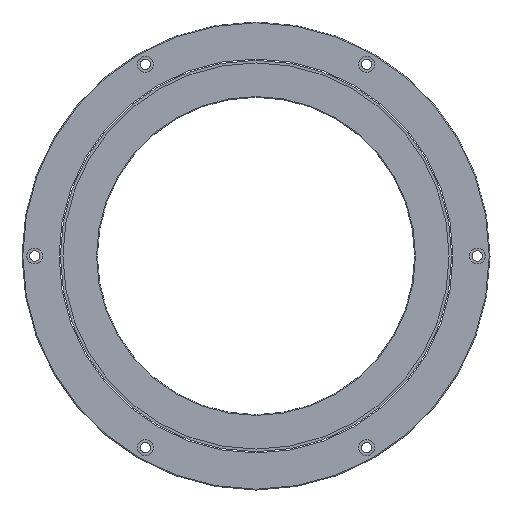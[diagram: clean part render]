
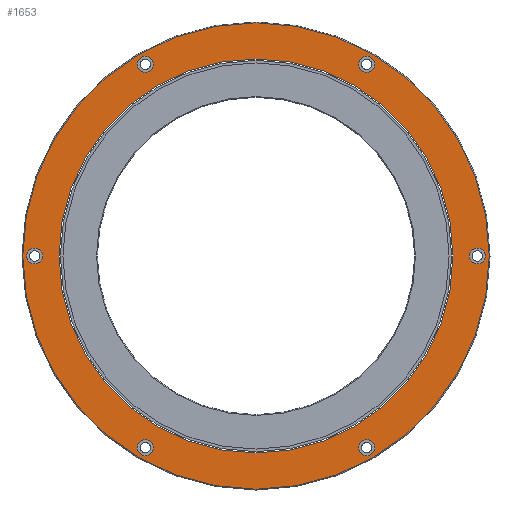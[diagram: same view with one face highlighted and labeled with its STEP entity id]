
A CAD part, front view. The second image highlights one B-rep face of the part: STEP entity #1653.
In plain terms, the highlighted planar face has unit normal (0, -1, 0).
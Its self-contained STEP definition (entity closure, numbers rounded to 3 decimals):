
#371=CARTESIAN_POINT('',(0.,0.,0.));
#372=DIRECTION('',(0.,-1.,0.));
#373=DIRECTION('',(-1.,0.,0.));
#374=AXIS2_PLACEMENT_3D('',#371,#372,#373);
#376=CARTESIAN_POINT('',(0.,0.,0.));
#377=DIRECTION('',(0.,1.,0.));
#378=DIRECTION('',(-1.,0.,0.));
#379=AXIS2_PLACEMENT_3D('',#376,#377,#378);
#381=CARTESIAN_POINT('',(-139.5,0.,0.));
#382=DIRECTION('',(0.,1.,0.));
#383=DIRECTION('',(1.,0.,0.));
#384=AXIS2_PLACEMENT_3D('',#381,#382,#383);
#386=CARTESIAN_POINT('',(-139.5,0.,0.));
#387=DIRECTION('',(0.,1.,0.));
#388=DIRECTION('',(-1.,0.,0.));
#389=AXIS2_PLACEMENT_3D('',#386,#387,#388);
#391=CARTESIAN_POINT('',(-69.75,0.,120.811));
#392=DIRECTION('',(0.,1.,0.));
#393=DIRECTION('',(0.5,0.,-0.866));
#394=AXIS2_PLACEMENT_3D('',#391,#392,#393);
#396=CARTESIAN_POINT('',(-69.75,0.,120.811));
#397=DIRECTION('',(0.,1.,0.));
#398=DIRECTION('',(-0.5,0.,0.866));
#399=AXIS2_PLACEMENT_3D('',#396,#397,#398);
#401=CARTESIAN_POINT('',(69.75,0.,120.811));
#402=DIRECTION('',(0.,1.,0.));
#403=DIRECTION('',(-0.5,0.,-0.866));
#404=AXIS2_PLACEMENT_3D('',#401,#402,#403);
#406=CARTESIAN_POINT('',(69.75,0.,120.811));
#407=DIRECTION('',(0.,1.,0.));
#408=DIRECTION('',(0.5,0.,0.866));
#409=AXIS2_PLACEMENT_3D('',#406,#407,#408);
#411=CARTESIAN_POINT('',(139.5,0.,0.));
#412=DIRECTION('',(0.,1.,0.));
#413=DIRECTION('',(-1.,0.,0.));
#414=AXIS2_PLACEMENT_3D('',#411,#412,#413);
#416=CARTESIAN_POINT('',(139.5,0.,0.));
#417=DIRECTION('',(0.,1.,0.));
#418=DIRECTION('',(1.,0.,0.));
#419=AXIS2_PLACEMENT_3D('',#416,#417,#418);
#421=CARTESIAN_POINT('',(69.75,0.,-120.811));
#422=DIRECTION('',(0.,1.,0.));
#423=DIRECTION('',(-0.5,0.,0.866));
#424=AXIS2_PLACEMENT_3D('',#421,#422,#423);
#426=CARTESIAN_POINT('',(69.75,0.,-120.811));
#427=DIRECTION('',(0.,1.,0.));
#428=DIRECTION('',(0.5,0.,-0.866));
#429=AXIS2_PLACEMENT_3D('',#426,#427,#428);
#431=CARTESIAN_POINT('',(-69.75,0.,-120.811));
#432=DIRECTION('',(0.,1.,0.));
#433=DIRECTION('',(0.5,0.,0.866));
#434=AXIS2_PLACEMENT_3D('',#431,#432,#433);
#436=CARTESIAN_POINT('',(-69.75,0.,-120.811));
#437=DIRECTION('',(0.,1.,0.));
#438=DIRECTION('',(-0.5,0.,-0.866));
#439=AXIS2_PLACEMENT_3D('',#436,#437,#438);
#441=CARTESIAN_POINT('',(0.,0.,0.));
#442=DIRECTION('',(0.,1.,0.));
#443=DIRECTION('',(-1.,0.,0.));
#444=AXIS2_PLACEMENT_3D('',#441,#442,#443);
#446=CARTESIAN_POINT('',(0.,0.,0.));
#447=DIRECTION('',(0.,1.,0.));
#448=DIRECTION('',(1.,0.,0.));
#449=AXIS2_PLACEMENT_3D('',#446,#447,#448);
#919=CARTESIAN_POINT('',(-134.5,0.,0.));
#920=VERTEX_POINT('',#919);
#921=CARTESIAN_POINT('',(-144.5,0.,0.));
#922=VERTEX_POINT('',#921);
#931=CARTESIAN_POINT('',(-67.25,0.,116.48));
#932=VERTEX_POINT('',#931);
#933=CARTESIAN_POINT('',(-72.25,0.,125.141));
#934=VERTEX_POINT('',#933);
#943=CARTESIAN_POINT('',(67.25,0.,116.48));
#944=VERTEX_POINT('',#943);
#945=CARTESIAN_POINT('',(72.25,0.,125.141));
#946=VERTEX_POINT('',#945);
#955=CARTESIAN_POINT('',(134.5,0.,0.));
#956=VERTEX_POINT('',#955);
#957=CARTESIAN_POINT('',(144.5,0.,0.));
#958=VERTEX_POINT('',#957);
#976=CARTESIAN_POINT('',(-124.15,0.,0.));
#978=VERTEX_POINT('',#976);
#980=CARTESIAN_POINT('',(124.15,0.,0.));
#982=VERTEX_POINT('',#980);
#995=CARTESIAN_POINT('',(-147.,0.,0.));
#996=CARTESIAN_POINT('',(147.,0.,0.));
#997=VERTEX_POINT('',#995);
#998=VERTEX_POINT('',#996);
#1043=CARTESIAN_POINT('',(67.25,0.,-116.48));
#1044=CARTESIAN_POINT('',(72.25,0.,-125.141));
#1045=VERTEX_POINT('',#1043);
#1046=VERTEX_POINT('',#1044);
#1055=CARTESIAN_POINT('',(-67.25,0.,-116.48));
#1056=CARTESIAN_POINT('',(-72.25,0.,-125.141));
#1057=VERTEX_POINT('',#1055);
#1058=VERTEX_POINT('',#1056);
#1604=CARTESIAN_POINT('',(0.,0.,0.));
#1605=DIRECTION('',(0.,1.,0.));
#1606=DIRECTION('',(1.,0.,0.));
#1607=AXIS2_PLACEMENT_3D('',#1604,#1605,#1606);
#1608=PLANE('',#1607);
#1609=ORIENTED_EDGE('',*,*,#1090,.T.);
#1610=ORIENTED_EDGE('',*,*,#1105,.T.);
#1611=EDGE_LOOP('',(#1609,#1610));
#1612=FACE_OUTER_BOUND('',#1611,.F.);
#1614=ORIENTED_EDGE('',*,*,#1613,.F.);
#1616=ORIENTED_EDGE('',*,*,#1615,.F.);
#1617=EDGE_LOOP('',(#1614,#1616));
#1618=FACE_BOUND('',#1617,.F.);
#1620=ORIENTED_EDGE('',*,*,#1619,.F.);
#1622=ORIENTED_EDGE('',*,*,#1621,.F.);
#1623=EDGE_LOOP('',(#1620,#1622));
#1624=FACE_BOUND('',#1623,.F.);
#1626=ORIENTED_EDGE('',*,*,#1625,.F.);
#1628=ORIENTED_EDGE('',*,*,#1627,.F.);
#1629=EDGE_LOOP('',(#1626,#1628));
#1630=FACE_BOUND('',#1629,.F.);
#1632=ORIENTED_EDGE('',*,*,#1631,.F.);
#1634=ORIENTED_EDGE('',*,*,#1633,.F.);
#1635=EDGE_LOOP('',(#1632,#1634));
#1636=FACE_BOUND('',#1635,.F.);
#1638=ORIENTED_EDGE('',*,*,#1637,.F.);
#1640=ORIENTED_EDGE('',*,*,#1639,.F.);
#1641=EDGE_LOOP('',(#1638,#1640));
#1642=FACE_BOUND('',#1641,.F.);
#1644=ORIENTED_EDGE('',*,*,#1643,.F.);
#1646=ORIENTED_EDGE('',*,*,#1645,.F.);
#1647=EDGE_LOOP('',(#1644,#1646));
#1648=FACE_BOUND('',#1647,.F.);
#1649=ORIENTED_EDGE('',*,*,#1599,.T.);
#1650=ORIENTED_EDGE('',*,*,#1583,.F.);
#1651=EDGE_LOOP('',(#1649,#1650));
#1652=FACE_BOUND('',#1651,.F.);
#375=CIRCLE('',#374,124.15);
#380=CIRCLE('',#379,124.15);
#385=CIRCLE('',#384,5.);
#390=CIRCLE('',#389,5.);
#395=CIRCLE('',#394,5.);
#400=CIRCLE('',#399,5.);
#405=CIRCLE('',#404,5.);
#410=CIRCLE('',#409,5.);
#415=CIRCLE('',#414,5.);
#420=CIRCLE('',#419,5.);
#425=CIRCLE('',#424,5.);
#430=CIRCLE('',#429,5.);
#435=CIRCLE('',#434,5.);
#440=CIRCLE('',#439,5.);
#445=CIRCLE('',#444,147.);
#450=CIRCLE('',#449,147.);
#1090=EDGE_CURVE('',#997,#998,#445,.T.);
#1105=EDGE_CURVE('',#998,#997,#450,.T.);
#1583=EDGE_CURVE('',#978,#982,#380,.T.);
#1599=EDGE_CURVE('',#978,#982,#375,.T.);
#1613=EDGE_CURVE('',#920,#922,#385,.T.);
#1615=EDGE_CURVE('',#922,#920,#390,.T.);
#1619=EDGE_CURVE('',#932,#934,#395,.T.);
#1621=EDGE_CURVE('',#934,#932,#400,.T.);
#1625=EDGE_CURVE('',#944,#946,#405,.T.);
#1627=EDGE_CURVE('',#946,#944,#410,.T.);
#1631=EDGE_CURVE('',#956,#958,#415,.T.);
#1633=EDGE_CURVE('',#958,#956,#420,.T.);
#1637=EDGE_CURVE('',#1045,#1046,#425,.T.);
#1639=EDGE_CURVE('',#1046,#1045,#430,.T.);
#1643=EDGE_CURVE('',#1057,#1058,#435,.T.);
#1645=EDGE_CURVE('',#1058,#1057,#440,.T.);
#1653=ADVANCED_FACE('',(#1612,#1618,#1624,#1630,#1636,#1642,#1648,#1652),#1608,
.F.);
